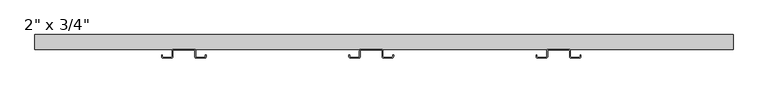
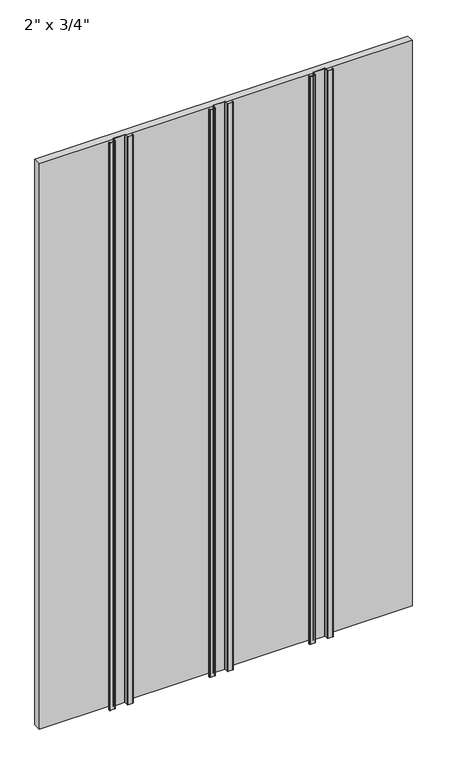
"""IFC4 building model written with IfcOpenShell, lengths in millimetres: plate geometry."""

import ifcopenshell
import ifcopenshell.guid

model = None  # the IFC model being written
_history = None  # IfcOwnerHistory: only IFC2X3 demands one
_inside = {}  # id of a spatial element -> (the spatial element, [elements in it])
_under = {}  # id of a project, library or spatial element -> (it, [spatial elements below it])
_declared = {}  # id of a project -> (the project, [libraries it declares])
_typed = {}  # id of a type object -> (the type object, [elements of that type])
_made_of = {}  # id of a material, layer set ... -> (it, [elements and type objects made of it])


def new_model(schema):
    """Start an empty IFC model of exactly this schema.

    Asked for "IFC4X3", IfcOpenShell would pick the latest addendum, in which some entities
    have other attributes; the version numbers below select the first issue.
    IFC2X3 requires an IfcOwnerHistory on every rooted entity: one is made here for all.
    """
    global model, _history
    if schema == "IFC4X3":
        model = ifcopenshell.file(schema_version=(4, 3, 0, 0))
    else:
        model = ifcopenshell.file(schema=schema)
    _inside.clear()
    _under.clear()
    _declared.clear()
    _typed.clear()
    _made_of.clear()
    _history = None
    if model.schema == "IFC2X3":
        org = make("IfcOrganization", Name="unknown")
        user = make(
            "IfcPersonAndOrganization",
            ThePerson=make("IfcPerson", FamilyName="unknown"),
            TheOrganization=org,
        )
        app = make(
            "IfcApplication",
            ApplicationDeveloper=org,
            Version="unknown",
            ApplicationFullName="unknown",
            ApplicationIdentifier="unknown",
        )
        _history = make(
            "IfcOwnerHistory",
            OwningUser=user,
            OwningApplication=app,
            ChangeAction="ADDED",
            CreationDate=0,
        )
    return model


def make(cls, **values):
    """One entity of the class cls with the attributes given. An attribute that is None is left unset."""
    return model.create_entity(
        cls, **{name: value for name, value in values.items() if value is not None}
    )


def rooted(cls, **values):
    """An entity with a GlobalId (a new one), such as an element, a storey or a relation."""
    return make(cls, GlobalId=ifcopenshell.guid.new(), OwnerHistory=_history, **values)


def si_unit(unit_type, name, prefix=None):
    """IfcSIUnit, for example si_unit("LENGTHUNIT", "METRE", prefix="MILLI")."""
    return make("IfcSIUnit", UnitType=unit_type, Prefix=prefix, Name=name)


def assignment(units):
    """IfcUnitAssignment: the units of a project."""
    return None if units is None else make("IfcUnitAssignment", Units=units)


def point(xyz):
    """IfcCartesianPoint."""
    return None if xyz is None else make("IfcCartesianPoint", Coordinates=xyz)


def direction(xyz):
    """IfcDirection."""
    return None if xyz is None else make("IfcDirection", DirectionRatios=xyz)


def frame(location, z_axis=None, x_axis=None):
    """IfcAxis2Placement3D, a coordinate frame: its origin and axes. An axis left out is left unset."""
    return make(
        "IfcAxis2Placement3D",
        Location=point(location),
        Axis=direction(z_axis),
        RefDirection=direction(x_axis),
    )


def frame_2d(location, x_axis=None):
    """IfcAxis2Placement2D, a coordinate frame in the plane: its origin and x axis."""
    return make(
        "IfcAxis2Placement2D", Location=point(location), RefDirection=direction(x_axis)
    )


def origin():
    """The frame at (0, 0, 0) with its axes left unset."""
    return frame((0.0, 0.0, 0.0))


def origin_with_axes():
    """The frame at (0, 0, 0) with the z axis (0, 0, 1) and the x axis (1, 0, 0) written out."""
    return frame((0.0, 0.0, 0.0), z_axis=(0.0, 0.0, 1.0), x_axis=(1.0, 0.0, 0.0))


def place(relative_to, where):
    """IfcLocalPlacement: puts the frame where relative to a parent placement (None: the world)."""
    return make(
        "IfcLocalPlacement", PlacementRelTo=relative_to, RelativePlacement=where
    )


def context(
    kind, dimensions, precision=None, world=None, true_north=None, identifier=None
):
    """IfcGeometricRepresentationContext, for example the 3D "Model" context."""
    return make(
        "IfcGeometricRepresentationContext",
        ContextIdentifier=identifier,
        ContextType=kind,
        CoordinateSpaceDimension=dimensions,
        Precision=precision,
        WorldCoordinateSystem=world,
        TrueNorth=true_north,
    )


def project(units=None, contexts=None):
    """IfcProject with its units and contexts."""
    return rooted(
        "IfcProject",
        Name="project",
        RepresentationContexts=contexts,
        UnitsInContext=assignment(units),
    )


def spatial(cls, under=None, at=None, **own):
    """A site, building, storey or space (cls), placed at a placement, below another one or the project."""
    s = rooted(cls, ObjectPlacement=at, **own)
    if under is not None:
        _under.setdefault(under.id(), (under, []))[1].append(s)
    return s


def polyline(points):
    """IfcPolyline through the points."""
    return make("IfcPolyline", Points=[point(p) for p in points])


def circle_curve(where, radius):
    """IfcCircle in the frame where."""
    return make("IfcCircle", Position=where, Radius=radius)


def trimmed(basis, trim1, trim2, sense, master):
    """IfcTrimmedCurve: the piece of a basis curve between two trims."""
    return make(
        "IfcTrimmedCurve",
        BasisCurve=basis,
        Trim1=trim1,
        Trim2=trim2,
        SenseAgreement=sense,
        MasterRepresentation=master,
    )


def segment(curve, same_sense, transition):
    """IfcCompositeCurveSegment."""
    return make(
        "IfcCompositeCurveSegment",
        Transition=transition,
        SameSense=same_sense,
        ParentCurve=curve,
    )


def composite_curve(segments, self_intersect=None):
    """IfcCompositeCurve: segments joined end to end."""
    return make("IfcCompositeCurve", Segments=segments, SelfIntersect=self_intersect)


def outline(outer, holes=None, kind="AREA"):
    """IfcArbitraryClosedProfileDef: a profile drawn as a closed curve; with holes, ...WithVoids."""
    if holes is None:
        return make("IfcArbitraryClosedProfileDef", ProfileType=kind, OuterCurve=outer)
    return make(
        "IfcArbitraryProfileDefWithVoids",
        ProfileType=kind,
        OuterCurve=outer,
        InnerCurves=holes,
    )


def extrude(swept, where, along, depth):
    """IfcExtrudedAreaSolid: the profile swept, set in the frame where, extruded along a direction by depth."""
    return make(
        "IfcExtrudedAreaSolid",
        SweptArea=swept,
        Position=where,
        ExtrudedDirection=direction(along),
        Depth=depth,
    )


def shape(context_of_items, identifier, shape_type, items):
    """IfcShapeRepresentation: the items that make up one representation, for example the "Body"."""
    return make(
        "IfcShapeRepresentation",
        ContextOfItems=context_of_items,
        RepresentationIdentifier=identifier,
        RepresentationType=shape_type,
        Items=items,
    )


def source(mapping_origin, context_of_items, identifier, shape_type, items):
    """IfcRepresentationMap: a shape defined once, which mapped items show again and again."""
    return make(
        "IfcRepresentationMap",
        MappingOrigin=mapping_origin,
        MappedRepresentation=shape(context_of_items, identifier, shape_type, items),
    )


def transform(
    local_origin,
    x_axis=None,
    y_axis=None,
    z_axis=None,
    scale=None,
    scale2=None,
    scale3=None,
    uniform=True,
):
    """IfcCartesianTransformationOperator3D, or its non-uniform kind. x_axis, y_axis, z_axis: its Axis1, 2, 3."""
    if uniform:
        return make(
            "IfcCartesianTransformationOperator3D",
            Axis1=direction(x_axis),
            Axis2=direction(y_axis),
            LocalOrigin=point(local_origin),
            Scale=scale,
            Axis3=direction(z_axis),
        )
    return make(
        "IfcCartesianTransformationOperator3DnonUniform",
        Axis1=direction(x_axis),
        Axis2=direction(y_axis),
        LocalOrigin=point(local_origin),
        Scale=scale,
        Axis3=direction(z_axis),
        Scale2=scale2,
        Scale3=scale3,
    )


def mapped(mapping_source, mapping_target):
    """IfcMappedItem: shows the shape of a source again, moved by a transform."""
    return make(
        "IfcMappedItem", MappingSource=mapping_source, MappingTarget=mapping_target
    )


def made_of(thing, what):
    """Note that an element or type object is made of a material, layer set ...; save() writes the relation."""
    if what is not None:
        _made_of.setdefault(what.id(), (what, []))[1].append(thing)
    return thing


def element(
    cls,
    number,
    at=None,
    inside=None,
    cuts=None,
    type_object=None,
    material=None,
    context=None,
    identifier="Body",
    shape_type=None,
    held_by="IfcProductDefinitionShape",
    body=None,
    shapes=None,
    **own,
):
    """One element of the class cls, such as IfcWall. Its Tag is "e" and its number.

    at: its placement. inside: the storey or other place that contains it. cuts: it is an
    opening in that element (IfcRelVoidsElement). A single representation is given by context,
    identifier, shape_type and body (its items); several are given by shapes. held_by: the class
    of the entity that holds the representations. save() writes the other relations.
    """
    e = rooted(cls, Tag="e%d" % number, ObjectPlacement=at, **own)
    if body is not None:
        shapes = [shape(context, identifier, shape_type, body)]
    if shapes is not None:
        e.Representation = make(held_by, Representations=shapes)
    if inside is not None:
        _inside.setdefault(inside.id(), (inside, []))[1].append(e)
    if cuts is not None:
        rooted(
            "IfcRelVoidsElement", RelatingBuildingElement=cuts, RelatedOpeningElement=e
        )
    if type_object is not None:
        _typed.setdefault(type_object.id(), (type_object, []))[1].append(e)
    return made_of(e, material)


def aggregate(whole, parts):
    """IfcRelAggregates: a whole, such as a stair, and the parts it consists of."""
    return rooted("IfcRelAggregates", RelatingObject=whole, RelatedObjects=parts)


def save(model, path):
    """Write the relations noted so far, then the file.

    IfcRelAggregates (storeys below a building ...), IfcRelContainedInSpatialStructure (elements
    in a storey), IfcRelDefinesByType, IfcRelAssociatesMaterial and IfcRelDeclares: one each for
    every whole, place, type object, material and project.
    """
    for whole, parts in _under.values():
        aggregate(whole, parts)
    for where, things in _inside.values():
        rooted(
            "IfcRelContainedInSpatialStructure",
            RelatedElements=things,
            RelatingStructure=where,
        )
    for kind, things in _typed.values():
        rooted("IfcRelDefinesByType", RelatedObjects=things, RelatingType=kind)
    for what, things in _made_of.values():
        rooted("IfcRelAssociatesMaterial", RelatedObjects=things, RelatingMaterial=what)
    for by, libraries in _declared.values():
        rooted("IfcRelDeclares", RelatingContext=by, RelatedDefinitions=libraries)
    model.write(path)


def plate_84a66804(model_context):
    return source(origin(), model_context, "Body", "SweptSolid", [
        extrude(outline(composite_curve([segment(polyline([(-76.2000002, 3.175), (-76.2000002, 6.35), (-74.6125002, 6.35), (-74.6125002, 3.175)]), True, "CONTINUOUS"), segment(trimmed(circle_curve(frame_2d((-73.0250002, 3.175)), 1.5875), [point((-74.6125002, 3.175))], [point((-73.0250002, 1.5875))], True, "CARTESIAN"), True, "CONTINUOUS"), segment(polyline([(-73.0250002, 1.5875), (-54.7624002, 1.5875)]), True, "CONTINUOUS"), segment(trimmed(circle_curve(frame_2d((-54.7624002, 3.175)), 1.5875), [point((-54.7624002, 1.5875))], [point((-53.1749002, 3.175))], True, "CARTESIAN"), True, "CONTINUOUS"), segment(polyline([(-53.1749002, 3.175), (-53.1749002, 15.875)]), True, "CONTINUOUS"), segment(trimmed(circle_curve(frame_2d((-49.9999002, 15.875)), 3.175), [point((-53.1749002, 15.875))], [point((-49.9999002, 19.05))], False, "CARTESIAN"), True, "CONTINUOUS"), segment(polyline([(-49.9999002, 19.05), (-5.5499002, 19.05)]), True, "CONTINUOUS"), segment(trimmed(circle_curve(frame_2d((-5.5499002, 15.875)), 3.175), [point((-5.5499002, 19.05))], [point((-2.3749002, 15.875))], False, "CARTESIAN"), True, "CONTINUOUS"), segment(polyline([(-2.3749002, 15.875), (-2.3749002, 3.175)]), True, "CONTINUOUS"), segment(trimmed(circle_curve(frame_2d((-0.7874002, 3.175)), 1.5875), [point((-2.3749002, 3.175))], [point((-0.7874002, 1.5875))], True, "CARTESIAN"), True, "CONTINUOUS"), segment(polyline([(-0.7874002, 1.5875), (17.4751998, 1.5875)]), True, "CONTINUOUS"), segment(trimmed(circle_curve(frame_2d((17.4751998, 3.175)), 1.5875), [point((17.4751998, 1.5875))], [point((19.0626998, 3.175))], True, "CARTESIAN"), True, "CONTINUOUS"), segment(polyline([(19.0626998, 3.175), (19.0626998, 6.35), (20.6501998, 6.35), (20.6501998, 3.175)]), True, "CONTINUOUS"), segment(trimmed(circle_curve(frame_2d((17.4751998, 3.175)), 3.175), [point((20.6501998, 3.175))], [point((17.4751998, 0.0))], False, "CARTESIAN"), True, "CONTINUOUS"), segment(polyline([(17.4751998, 0.0), (-0.7874002, 0.0)]), True, "CONTINUOUS"), segment(trimmed(circle_curve(frame_2d((-0.7874002, 3.175)), 3.175), [point((-0.7874002, 0.0))], [point((-3.9624002, 3.175))], False, "CARTESIAN"), True, "CONTINUOUS"), segment(polyline([(-3.9624002, 3.175), (-3.9624002, 15.875)]), True, "CONTINUOUS"), segment(trimmed(circle_curve(frame_2d((-5.5499002, 15.875)), 1.5875), [point((-3.9624002, 15.875))], [point((-5.5499002, 17.4625))], True, "CARTESIAN"), True, "CONTINUOUS"), segment(polyline([(-5.5499002, 17.4625), (-49.9999002, 17.4625)]), True, "CONTINUOUS"), segment(trimmed(circle_curve(frame_2d((-49.9999002, 15.875)), 1.5875), [point((-49.9999002, 17.4625))], [point((-51.5874002, 15.875))], True, "CARTESIAN"), True, "CONTINUOUS"), segment(polyline([(-51.5874002, 15.875), (-51.5874002, 3.175)]), True, "CONTINUOUS"), segment(trimmed(circle_curve(frame_2d((-54.7624002, 3.175)), 3.175), [point((-51.5874002, 3.175))], [point((-54.7624002, 0.0))], False, "CARTESIAN"), True, "CONTINUOUS"), segment(polyline([(-54.7624002, 0.0), (-73.0250002, 0.0)]), True, "CONTINUOUS"), segment(trimmed(circle_curve(frame_2d((-73.0250002, 3.175)), 3.175), [point((-73.0250002, 0.0))], [point((-76.2000002, 3.175))], False, "CARTESIAN"), True, "CONTINUOUS")], self_intersect=False)), origin_with_axes(), (0.0, 0.0, 1.0), 2438.4),
        extrude(outline(composite_curve([segment(polyline([(330.1999998, 3.175), (330.1999998, 6.35), (331.7874998, 6.35), (331.7874998, 3.175)]), True, "CONTINUOUS"), segment(trimmed(circle_curve(frame_2d((333.3749998, 3.175)), 1.5875), [point((331.7874998, 3.175))], [point((333.3749998, 1.5875))], True, "CARTESIAN"), True, "CONTINUOUS"), segment(polyline([(333.3749998, 1.5875), (351.6375998, 1.5875)]), True, "CONTINUOUS"), segment(trimmed(circle_curve(frame_2d((351.6375998, 3.175)), 1.5875), [point((351.6375998, 1.5875))], [point((353.2250998, 3.175))], True, "CARTESIAN"), True, "CONTINUOUS"), segment(polyline([(353.2250998, 3.175), (353.2250998, 15.875)]), True, "CONTINUOUS"), segment(trimmed(circle_curve(frame_2d((356.4000998, 15.875)), 3.175), [point((353.2250998, 15.875))], [point((356.4000998, 19.05))], False, "CARTESIAN"), True, "CONTINUOUS"), segment(polyline([(356.4000998, 19.05), (400.8500998, 19.05)]), True, "CONTINUOUS"), segment(trimmed(circle_curve(frame_2d((400.8500998, 15.875)), 3.175), [point((400.8500998, 19.05))], [point((404.0250998, 15.875))], False, "CARTESIAN"), True, "CONTINUOUS"), segment(polyline([(404.0250998, 15.875), (404.0250998, 3.175)]), True, "CONTINUOUS"), segment(trimmed(circle_curve(frame_2d((405.6125998, 3.175)), 1.5875), [point((404.0250998, 3.175))], [point((405.6125998, 1.5875))], True, "CARTESIAN"), True, "CONTINUOUS"), segment(polyline([(405.6125998, 1.5875), (423.8751998, 1.5875)]), True, "CONTINUOUS"), segment(trimmed(circle_curve(frame_2d((423.8751998, 3.175)), 1.5875), [point((423.8751998, 1.5875))], [point((425.4626998, 3.175))], True, "CARTESIAN"), True, "CONTINUOUS"), segment(polyline([(425.4626998, 3.175), (425.4626998, 6.35), (427.0501998, 6.35), (427.0501998, 3.175)]), True, "CONTINUOUS"), segment(trimmed(circle_curve(frame_2d((423.8751998, 3.175)), 3.175), [point((427.0501998, 3.175))], [point((423.8751998, 0.0))], False, "CARTESIAN"), True, "CONTINUOUS"), segment(polyline([(423.8751998, 0.0), (405.6125998, 0.0)]), True, "CONTINUOUS"), segment(trimmed(circle_curve(frame_2d((405.6125998, 3.175)), 3.175), [point((405.6125998, 0.0))], [point((402.4375998, 3.175))], False, "CARTESIAN"), True, "CONTINUOUS"), segment(polyline([(402.4375998, 3.175), (402.4375998, 15.875)]), True, "CONTINUOUS"), segment(trimmed(circle_curve(frame_2d((400.8500998, 15.875)), 1.5875), [point((402.4375998, 15.875))], [point((400.8500998, 17.4625))], True, "CARTESIAN"), True, "CONTINUOUS"), segment(polyline([(400.8500998, 17.4625), (356.4000998, 17.4625)]), True, "CONTINUOUS"), segment(trimmed(circle_curve(frame_2d((356.4000998, 15.875)), 1.5875), [point((356.4000998, 17.4625))], [point((354.8125998, 15.875))], True, "CARTESIAN"), True, "CONTINUOUS"), segment(polyline([(354.8125998, 15.875), (354.8125998, 3.175)]), True, "CONTINUOUS"), segment(trimmed(circle_curve(frame_2d((351.6375998, 3.175)), 3.175), [point((354.8125998, 3.175))], [point((351.6375998, 0.0))], False, "CARTESIAN"), True, "CONTINUOUS"), segment(polyline([(351.6375998, 0.0), (333.3749998, 0.0)]), True, "CONTINUOUS"), segment(trimmed(circle_curve(frame_2d((333.3749998, 3.175)), 3.175), [point((333.3749998, 0.0))], [point((330.1999998, 3.175))], False, "CARTESIAN"), True, "CONTINUOUS")], self_intersect=False)), origin_with_axes(), (0.0, 0.0, 1.0), 2438.4),
        extrude(outline(composite_curve([segment(polyline([(-482.6000002, 3.175), (-482.6000002, 6.35), (-481.0125002, 6.35), (-481.0125002, 3.175)]), True, "CONTINUOUS"), segment(trimmed(circle_curve(frame_2d((-479.4250002, 3.175)), 1.5875), [point((-481.0125002, 3.175))], [point((-479.4250002, 1.5875))], True, "CARTESIAN"), True, "CONTINUOUS"), segment(polyline([(-479.4250002, 1.5875), (-461.1624002, 1.5875)]), True, "CONTINUOUS"), segment(trimmed(circle_curve(frame_2d((-461.1624002, 3.175)), 1.5875), [point((-461.1624002, 1.5875))], [point((-459.5749002, 3.175))], True, "CARTESIAN"), True, "CONTINUOUS"), segment(polyline([(-459.5749002, 3.175), (-459.5749002, 15.875)]), True, "CONTINUOUS"), segment(trimmed(circle_curve(frame_2d((-456.3999002, 15.875)), 3.175), [point((-459.5749002, 15.875))], [point((-456.3999002, 19.05))], False, "CARTESIAN"), True, "CONTINUOUS"), segment(polyline([(-456.3999002, 19.05), (-411.9499002, 19.05)]), True, "CONTINUOUS"), segment(trimmed(circle_curve(frame_2d((-411.9499002, 15.875)), 3.175), [point((-411.9499002, 19.05))], [point((-408.7749002, 15.875))], False, "CARTESIAN"), True, "CONTINUOUS"), segment(polyline([(-408.7749002, 15.875), (-408.7749002, 3.175)]), True, "CONTINUOUS"), segment(trimmed(circle_curve(frame_2d((-407.1874002, 3.175)), 1.5875), [point((-408.7749002, 3.175))], [point((-407.1874002, 1.5875))], True, "CARTESIAN"), True, "CONTINUOUS"), segment(polyline([(-407.1874002, 1.5875), (-388.9248002, 1.5875)]), True, "CONTINUOUS"), segment(trimmed(circle_curve(frame_2d((-388.9248002, 3.175)), 1.5875), [point((-388.9248002, 1.5875))], [point((-387.3373002, 3.175))], True, "CARTESIAN"), True, "CONTINUOUS"), segment(polyline([(-387.3373002, 3.175), (-387.3373002, 6.35), (-385.7498002, 6.35), (-385.7498002, 3.175)]), True, "CONTINUOUS"), segment(trimmed(circle_curve(frame_2d((-388.9248002, 3.175)), 3.175), [point((-385.7498002, 3.175))], [point((-388.9248002, 0.0))], False, "CARTESIAN"), True, "CONTINUOUS"), segment(polyline([(-388.9248002, 0.0), (-407.1874002, 0.0)]), True, "CONTINUOUS"), segment(trimmed(circle_curve(frame_2d((-407.1874002, 3.175)), 3.175), [point((-407.1874002, 0.0))], [point((-410.3624002, 3.175))], False, "CARTESIAN"), True, "CONTINUOUS"), segment(polyline([(-410.3624002, 3.175), (-410.3624002, 15.875)]), True, "CONTINUOUS"), segment(trimmed(circle_curve(frame_2d((-411.9499002, 15.875)), 1.5875), [point((-410.3624002, 15.875))], [point((-411.9499002, 17.4625))], True, "CARTESIAN"), True, "CONTINUOUS"), segment(polyline([(-411.9499002, 17.4625), (-456.3999002, 17.4625)]), True, "CONTINUOUS"), segment(trimmed(circle_curve(frame_2d((-456.3999002, 15.875)), 1.5875), [point((-456.3999002, 17.4625))], [point((-457.9874002, 15.875))], True, "CARTESIAN"), True, "CONTINUOUS"), segment(polyline([(-457.9874002, 15.875), (-457.9874002, 3.175)]), True, "CONTINUOUS"), segment(trimmed(circle_curve(frame_2d((-461.1624002, 3.175)), 3.175), [point((-457.9874002, 3.175))], [point((-461.1624002, 0.0))], False, "CARTESIAN"), True, "CONTINUOUS"), segment(polyline([(-461.1624002, 0.0), (-479.4250002, 0.0)]), True, "CONTINUOUS"), segment(trimmed(circle_curve(frame_2d((-479.4250002, 3.175)), 3.175), [point((-479.4250002, 0.0))], [point((-482.6000002, 3.175))], False, "CARTESIAN"), True, "CONTINUOUS")], self_intersect=False)), origin_with_axes(), (0.0, 0.0, 1.0), 2438.4),
        extrude(outline(polyline([(757.2375002, 19.05), (-757.2375002, 19.05), (-757.2375002, 50.8), (757.2375002, 50.8), (757.2375002, 19.05)])), frame((0.0, 0.0, 4.7625), z_axis=(0.0, 0.0, 1.0), x_axis=(1.0, 0.0, 0.0)), (0.0, 0.0, 1.0), 2428.875),
    ])


if __name__ == "__main__":
    model = new_model("IFC4")
    model_context = context("Model", 3, world=origin())
    ifc_project = project(units=[si_unit("LENGTHUNIT", "METRE", prefix="MILLI")], contexts=[model_context])
    site = spatial("IfcSite", under=ifc_project)
    building = spatial("IfcBuilding", under=site)
    placement = place(None, origin())
    plate_shape = plate_84a66804(model_context)
    element("IfcPlate", 1, ObjectType="KWS_Generic-Panel_w_PanelRail-V : 2\" x 3/4\"", at=placement, inside=building, context=model_context, shape_type="MappedRepresentation", body=[
        mapped(plate_shape, transform((0.0, 0.0, 0.0), x_axis=(1.0, 0.0, 0.0), y_axis=(0.0, 1.0, 0.0), z_axis=(0.0, 0.0, 1.0))),
    ])
    save(model, "model.ifc")
